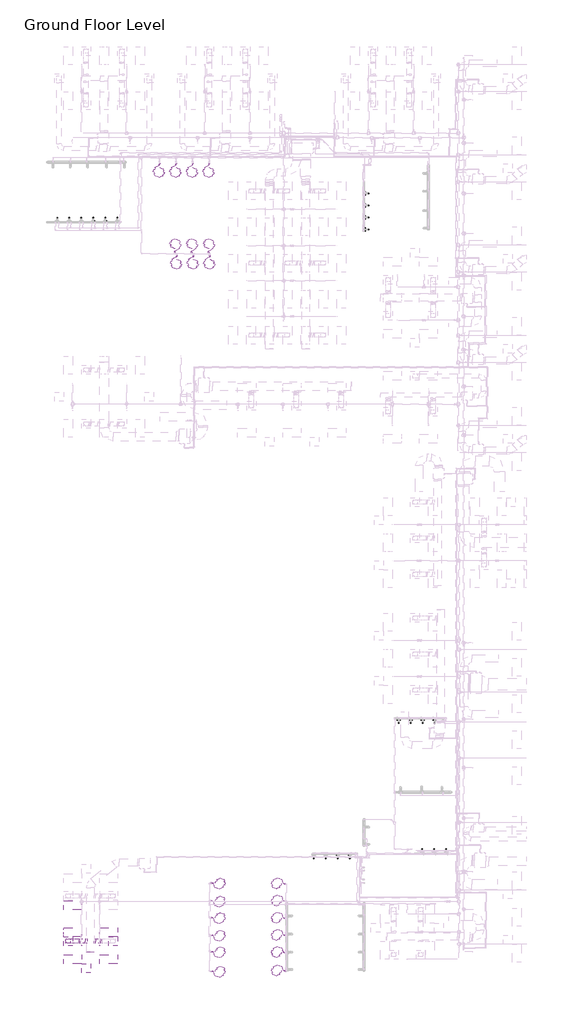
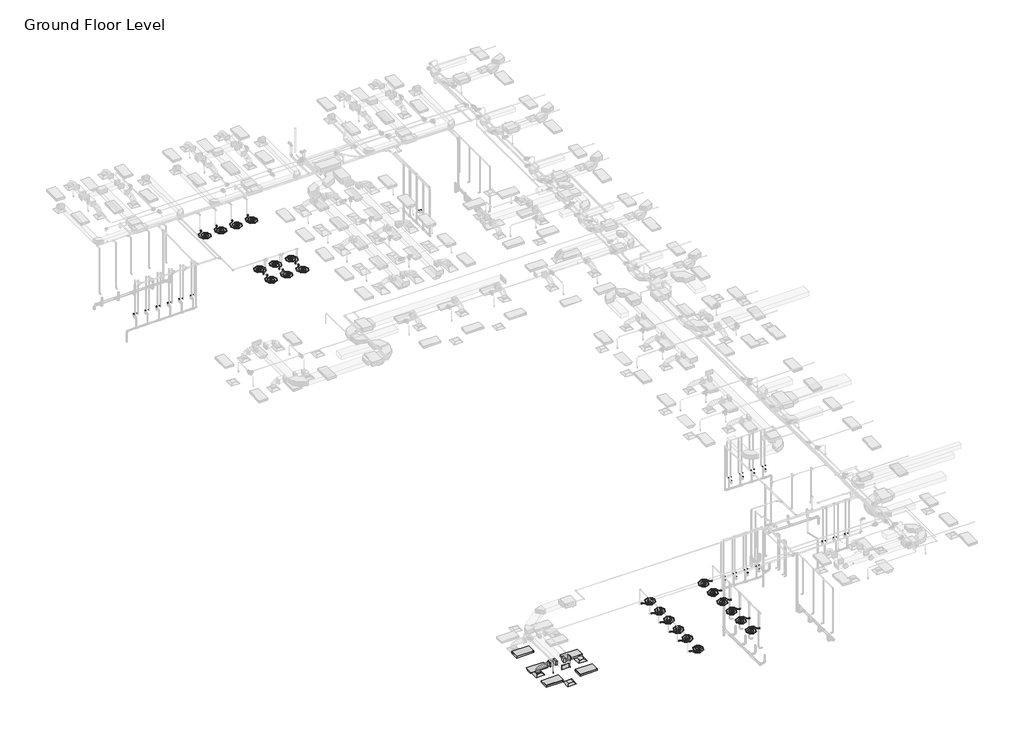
# One storey, part 1 of 75: 43 flow terminals, 6 duct fittings, 5 light fixtures, 3 air terminals, 3 duct segments, 2 fire suppression terminals, 2 pipe segments.
"""IFC4 building model written with IfcOpenShell, lengths in millimetres."""

from ifc_helpers import new_model, si_unit, point, frame, frame_2d, origin, place, context, project, spatial, polyline, circle_curve, ellipse_curve, trimmed, segment, composite_curve, outline, extrude, transform, mapped, element, save
from ifc_brep_helpers import plane_surface, cylinder_surface, advanced_brep
from components import m_return_diffuser_600_x_600_face_300_x_300_connection_ff221211, m_rectangular_endcap_standard_72d4d00d, m_rectangular_takeoff_standard_cb0ccb98, m_rectangular_takeoff_standard_2be5eba1, m_rectangular_to_round_transition_angle_45_degree_641efff0, m_sprinkler_dry_pendent_hosted_15_mm_dry_pendent_9bda8e11, lavatory_unit_m_type_1_c53317d3, shower_m_shower_m_096738a5, m_emergency_recessed_lighting_fixture_600x1200_277_5b10b25d, m_troffer_light_parabolic_rectangular1_0600x1200mm_4_lamp_86473d4a

model = new_model("IFC4")

# Units and contexts
model_context = context("Model", 3, world=origin())
ifc_project = project(units=[si_unit("LENGTHUNIT", "METRE", prefix="MILLI")], contexts=[model_context])

# Site, building, storey
site = spatial("IfcSite", under=ifc_project)
building = spatial("IfcBuilding", under=site)
storey = spatial("IfcBuildingStorey", under=building, Name="Ground Floor Level", Elevation=900.0)

# Air terminals
placement = place(None, origin())
m_return_diffuser_600_x_600_face_300_x_300_connection_shape = m_return_diffuser_600_x_600_face_300_x_300_connection_ff221211(model_context)
element("IfcAirTerminal", 1, ObjectType="M_Return Diffuser : 600 x 600 Face 300 x 300 Connection", at=placement, inside=storey, context=model_context, shape_type="MappedRepresentation", body=[
    mapped(m_return_diffuser_600_x_600_face_300_x_300_connection_shape, transform((-19137.2327605, -40464.7846466, 3650.0), x_axis=(1.0, 0.0, 0.0), y_axis=(0.0, 1.0, 0.0), z_axis=(0.0, 0.0, 1.0))),
])
element("IfcAirTerminal", 2, ObjectType="M_Supply Diffuser : 600 x 600 Face 300 x 300 Connection", at=placement, inside=storey, context=model_context, shape_type="MappedRepresentation", body=[
    mapped(m_return_diffuser_600_x_600_face_300_x_300_connection_shape, transform((-20337.2327605, -38664.7846466, 3650.0), x_axis=(1.0, 0.0, 0.0), y_axis=(0.0, 1.0, 0.0), z_axis=(0.0, 0.0, 1.0))),
])
element("IfcAirTerminal", 3, ObjectType="M_Supply Diffuser : 600 x 600 Face 300 x 300 Connection", at=placement, inside=storey, context=model_context, shape_type="MappedRepresentation", body=[
    mapped(m_return_diffuser_600_x_600_face_300_x_300_connection_shape, transform((-17337.2327605, -38674.7846466, 3650.0), x_axis=(1.0, 0.0, 0.0), y_axis=(0.0, 1.0, 0.0), z_axis=(0.0, 0.0, 1.0))),
])

# Duct fittings
m_rectangular_endcap_standard_shape = m_rectangular_endcap_standard_72d4d00d(model_context)
element("IfcDuctFitting", 4, ObjectType="M_Rectangular Endcap : Standard", at=placement, inside=storey, context=model_context, shape_type="MappedRepresentation", body=[
    mapped(m_rectangular_endcap_standard_shape, transform((-18834.0450532, -39368.1580197, 4100.0), x_axis=(0.0, -1.0, 0.0), y_axis=(1.0, 0.0, 0.0), z_axis=(0.0, 0.0, 1.0))),
])
m_rectangular_takeoff_standard_shape = m_rectangular_takeoff_standard_cb0ccb98(model_context)
element("IfcDuctFitting", 5, ObjectType="M_Rectangular Takeoff : Standard", at=placement, inside=storey, context=model_context, shape_type="MappedRepresentation", body=[
    mapped(m_rectangular_takeoff_standard_shape, transform((-18584.0450532, -38664.7846466, 4100.0), x_axis=(1.0, 0.0, 0.0), y_axis=(0.0, -1.0, 0.0), z_axis=(0.0, 0.0, -1.0))),
])
m_rectangular_takeoff_standard_2_shape = m_rectangular_takeoff_standard_2be5eba1(model_context)
element("IfcDuctFitting", 6, ObjectType="M_Rectangular Takeoff : Standard", at=placement, inside=storey, context=model_context, shape_type="MappedRepresentation", body=[
    mapped(m_rectangular_takeoff_standard_2_shape, transform((-19084.0450532, -38664.7846466, 4100.0), x_axis=(-1.0, 0.0, 0.0), y_axis=(0.0, 1.0, 0.0), z_axis=(0.0, 0.0, -1.0))),
])
m_rectangular_to_round_transition_angle_45_degree_shape = m_rectangular_to_round_transition_angle_45_degree_641efff0(model_context)
element("IfcDuctFitting", 7, ObjectType="M_Rectangular to Round Transition - Angle : 45 Degree", at=placement, inside=storey, context=model_context, shape_type="MappedRepresentation", body=[
    mapped(m_rectangular_to_round_transition_angle_45_degree_shape, transform((-18164.5686918, -38664.7846466, 4100.0), x_axis=(1.0, 0.0, 0.0), y_axis=(0.0, 1.0, 0.0), z_axis=(0.0, 0.0, 1.0))),
])
element("IfcDuctFitting", 8, ObjectType="M_Rectangular to Round Transition - Angle : 45 Degree", at=placement, inside=storey, context=model_context, shape_type="MappedRepresentation", body=[
    mapped(m_rectangular_to_round_transition_angle_45_degree_shape, transform((-20337.2327605, -38664.7846466, 3751.6), x_axis=(0.0, 0.0, 1.0), y_axis=(-1.0, 0.0, 0.0), z_axis=(0.0, -1.0, 0.0))),
])
element("IfcDuctFitting", 9, ObjectType="M_Rectangular to Round Transition - Angle : 45 Degree", at=placement, inside=storey, context=model_context, shape_type="MappedRepresentation", body=[
    mapped(m_rectangular_to_round_transition_angle_45_degree_shape, transform((-19509.8968292, -38664.7846466, 4100.0), x_axis=(-1.0, 0.0, 0.0), y_axis=(0.0, -1.0, 0.0), z_axis=(0.0, 0.0, 1.0))),
])

# Duct segments
element("IfcDuctSegment", 10, ObjectType="Flex - Round", at=placement, inside=storey, context=model_context, shape_type="AdvancedBrep", body=[
    advanced_brep(
    [(-20187.2327605, -38664.7846466, 3826.6), (-20337.2327605, -38814.7846466, 3826.6), (-20487.2327605, -38664.7846466, 3826.6), (-20337.2327605, -38514.7846466, 3826.6), (-20187.2327605, -38664.7846466, 3832.2944892), (-20337.2327605, -38814.7846466, 3857.9377114), (-20487.2327605, -38664.7846466, 3883.5809337), (-20337.2327605, -38514.7846466, 3857.9377114), (-20186.478849, -38664.7846466, 3834.435049), (-20320.216828, -38814.7846466, 3906.2505728), (-20453.9548069, -38664.7846466, 3978.0660967), (-20320.216828, -38514.7846466, 3906.2505728), (-20168.8270484, -38664.7846466, 3857.8020236), (-20273.0329476, -38814.7846466, 3968.7113131), (-20377.2388469, -38664.7846466, 4079.6206026), (-20273.0329476, -38514.7846466, 3968.7113131), (-20132.5429398, -38664.7846466, 3881.8163788), (-20201.4769955, -38814.7846466, 4016.0700639), (-20270.4110511, -38664.7846466, 4150.3237489), (-20201.4769955, -38514.7846466, 4016.0700639), (-20067.7840843, -38664.7846466, 3906.4925606), (-20111.3448475, -38814.7846466, 4050.4146682), (-20154.9056106, -38664.7846466, 4194.3367758), (-20111.3448475, -38514.7846466, 4050.4146682), (-19981.8714556, -38664.7846466, 3926.0424542), (-20008.4323796, -38814.7846466, 4073.8329691), (-20034.9933036, -38664.7846466, 4221.6234841), (-20008.4323796, -38514.7846466, 4073.8329691), (-19883.3845655, -38664.7846466, 3939.1085462), (-19898.5354679, -38814.7846466, 4088.4128097), (-19913.6863702, -38664.7846466, 4237.7170733), (-19898.5354679, -38514.7846466, 4088.4128097), (-19779.9446601, -38664.7846466, 3946.398915), (-19787.4499883, -38814.7846466, 4096.242033), (-19794.9553164, -38664.7846466, 4246.085151), (-19787.4499883, -38514.7846466, 4096.242033), (-19678.2803236, -38664.7846466, 3949.4222102), (-19680.9718167, -38814.7846466, 4099.4084821), (-19683.6633098, -38664.7846466, 4249.394754), (-19680.9718167, -38514.7846466, 4099.4084821), (-19583.9733214, -38664.7846466, 3950.0028429), (-19584.8968292, -38814.7846466, 4100.0), (-19585.8203371, -38664.7846466, 4249.9971571), (-19584.8968292, -38514.7846466, 4100.0)],
    [
        (0, 1, circle_curve(frame((-20337.2327605, -38664.7846466, 3826.6), z_axis=(0.0, 0.0, -1.0), x_axis=(1.0, 0.0, 0.0)), 150.0)),
        (1, 2, circle_curve(frame((-20337.2327605, -38664.7846466, 3826.6), z_axis=(0.0, 0.0, -1.0), x_axis=(1.0, 0.0, 0.0)), 150.0)),
        (2, 3, circle_curve(frame((-20337.2327605, -38664.7846466, 3826.6), z_axis=(0.0, 0.0, -1.0), x_axis=(1.0, 0.0, 0.0)), 150.0)),
        (3, 0, circle_curve(frame((-20337.2327605, -38664.7846466, 3826.6), z_axis=(0.0, 0.0, -1.0), x_axis=(1.0, 0.0, 0.0)), 150.0)),
        (0, 4),
        (4, 5, ellipse_curve(frame((-20337.2327605, -38664.7846466, 3857.9377114), z_axis=(-0.16851014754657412, 0.0, -0.9856999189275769), x_axis=(0.9856999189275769, 0.0, -0.16851014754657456)), 152.176131, 150.0)),
        (5, 1),
        (5, 6, ellipse_curve(frame((-20337.2327605, -38664.7846466, 3857.9377114), z_axis=(-0.16851014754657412, 0.0, -0.9856999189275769), x_axis=(0.9856999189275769, 0.0, -0.16851014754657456)), 152.176131, 150.0)),
        (6, 2),
        (6, 7, ellipse_curve(frame((-20337.2327605, -38664.7846466, 3857.9377114), z_axis=(-0.16851014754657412, 0.0, -0.9856999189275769), x_axis=(0.9856999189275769, 0.0, -0.16851014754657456)), 152.176131, 150.0)),
        (7, 3),
        (7, 4, ellipse_curve(frame((-20337.2327605, -38664.7846466, 3857.9377114), z_axis=(-0.16851014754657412, 0.0, -0.9856999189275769), x_axis=(0.9856999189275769, 0.0, -0.16851014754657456)), 152.176131, 150.0)),
        (4, 8),
        (8, 9, ellipse_curve(frame((-20320.216828, -38664.7846466, 3906.2505728), z_axis=(-0.47309225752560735, 0.0, -0.881012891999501), x_axis=(0.8810128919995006, 0.0, -0.4730922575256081)), 151.8002519, 150.0)),
        (9, 5),
        (9, 10, ellipse_curve(frame((-20320.216828, -38664.7846466, 3906.2505728), z_axis=(-0.47309225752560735, 0.0, -0.881012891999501), x_axis=(0.8810128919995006, 0.0, -0.4730922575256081)), 151.8002519, 150.0)),
        (10, 6),
        (10, 11, ellipse_curve(frame((-20320.216828, -38664.7846466, 3906.2505728), z_axis=(-0.47309225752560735, 0.0, -0.881012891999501), x_axis=(0.8810128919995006, 0.0, -0.4730922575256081)), 151.8002519, 150.0)),
        (11, 7),
        (11, 8, ellipse_curve(frame((-20320.216828, -38664.7846466, 3906.2505728), z_axis=(-0.47309225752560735, 0.0, -0.881012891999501), x_axis=(0.8810128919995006, 0.0, -0.4730922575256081)), 151.8002519, 150.0)),
        (8, 12),
        (12, 13, ellipse_curve(frame((-20273.0329476, -38664.7846466, 3968.7113131), z_axis=(-0.728787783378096, 0.0, -0.6847396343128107), x_axis=(0.6847396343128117, 0.0, -0.7287877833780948)), 152.1832446, 150.0)),
        (13, 9),
        (13, 14, ellipse_curve(frame((-20273.0329476, -38664.7846466, 3968.7113131), z_axis=(-0.728787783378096, 0.0, -0.6847396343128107), x_axis=(0.6847396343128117, 0.0, -0.7287877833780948)), 152.1832446, 150.0)),
        (14, 10),
        (14, 15, ellipse_curve(frame((-20273.0329476, -38664.7846466, 3968.7113131), z_axis=(-0.728787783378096, 0.0, -0.6847396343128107), x_axis=(0.6847396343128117, 0.0, -0.7287877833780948)), 152.1832446, 150.0)),
        (15, 11),
        (15, 12, ellipse_curve(frame((-20273.0329476, -38664.7846466, 3968.7113131), z_axis=(-0.728787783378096, 0.0, -0.6847396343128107), x_axis=(0.6847396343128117, 0.0, -0.7287877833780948)), 152.1832446, 150.0)),
        (12, 16),
        (16, 17, ellipse_curve(frame((-20201.4769955, -38664.7846466, 4016.0700639), z_axis=(-0.8895859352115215, 0.0, -0.4567678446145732), x_axis=(0.45676784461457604, 0.0, -0.88958593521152)), 150.91705, 150.0)),
        (17, 13),
        (17, 18, ellipse_curve(frame((-20201.4769955, -38664.7846466, 4016.0700639), z_axis=(-0.8895859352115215, 0.0, -0.4567678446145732), x_axis=(0.45676784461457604, 0.0, -0.88958593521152)), 150.91705, 150.0)),
        (18, 14),
        (18, 19, ellipse_curve(frame((-20201.4769955, -38664.7846466, 4016.0700639), z_axis=(-0.8895859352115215, 0.0, -0.4567678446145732), x_axis=(0.45676784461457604, 0.0, -0.88958593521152)), 150.91705, 150.0)),
        (19, 15),
        (19, 16, ellipse_curve(frame((-20201.4769955, -38664.7846466, 4016.0700639), z_axis=(-0.8895859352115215, 0.0, -0.4567678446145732), x_axis=(0.45676784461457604, 0.0, -0.88958593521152)), 150.91705, 150.0)),
        (16, 20),
        (20, 21, ellipse_curve(frame((-20111.3448475, -38664.7846466, 4050.4146682), z_axis=(-0.9571203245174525, 0.0, -0.2896906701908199), x_axis=(0.28969067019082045, 0.0, -0.9571203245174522)), 150.369921, 150.0)),
        (21, 17),
        (21, 22, ellipse_curve(frame((-20111.3448475, -38664.7846466, 4050.4146682), z_axis=(-0.9571203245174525, 0.0, -0.2896906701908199), x_axis=(0.28969067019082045, 0.0, -0.9571203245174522)), 150.369921, 150.0)),
        (22, 18),
        (22, 23, ellipse_curve(frame((-20111.3448475, -38664.7846466, 4050.4146682), z_axis=(-0.9571203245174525, 0.0, -0.2896906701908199), x_axis=(0.28969067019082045, 0.0, -0.9571203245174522)), 150.369921, 150.0)),
        (23, 19),
        (23, 20, ellipse_curve(frame((-20111.3448475, -38664.7846466, 4050.4146682), z_axis=(-0.9571203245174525, 0.0, -0.2896906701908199), x_axis=(0.28969067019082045, 0.0, -0.9571203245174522)), 150.369921, 150.0)),
        (20, 24),
        (24, 25, ellipse_curve(frame((-20008.4323796, -38664.7846466, 4073.8329691), z_axis=(-0.9842313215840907, 0.0, -0.17688613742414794), x_axis=(0.17688613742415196, 0.0, -0.9842313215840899)), 150.1583131, 150.0)),
        (25, 21),
        (25, 26, ellipse_curve(frame((-20008.4323796, -38664.7846466, 4073.8329691), z_axis=(-0.9842313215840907, 0.0, -0.17688613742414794), x_axis=(0.17688613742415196, 0.0, -0.9842313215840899)), 150.1583131, 150.0)),
        (26, 22),
        (26, 27, ellipse_curve(frame((-20008.4323796, -38664.7846466, 4073.8329691), z_axis=(-0.9842313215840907, 0.0, -0.17688613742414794), x_axis=(0.17688613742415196, 0.0, -0.9842313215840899)), 150.1583131, 150.0)),
        (27, 23),
        (27, 24, ellipse_curve(frame((-20008.4323796, -38664.7846466, 4073.8329691), z_axis=(-0.9842313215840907, 0.0, -0.17688613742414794), x_axis=(0.17688613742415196, 0.0, -0.9842313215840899)), 150.1583131, 150.0)),
        (24, 28),
        (28, 29, ellipse_curve(frame((-19898.5354679, -38664.7846466, 4088.4128097), z_axis=(-0.9948906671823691, 0.0, -0.1009582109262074), x_axis=(0.10095821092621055, 0.0, -0.9948906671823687)), 150.0710264, 150.0)),
        (29, 25),
        (29, 30, ellipse_curve(frame((-19898.5354679, -38664.7846466, 4088.4128097), z_axis=(-0.9948906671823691, 0.0, -0.1009582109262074), x_axis=(0.10095821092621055, 0.0, -0.9948906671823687)), 150.0710264, 150.0)),
        (30, 26),
        (30, 31, ellipse_curve(frame((-19898.5354679, -38664.7846466, 4088.4128097), z_axis=(-0.9948906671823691, 0.0, -0.1009582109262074), x_axis=(0.10095821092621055, 0.0, -0.9948906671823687)), 150.0710264, 150.0)),
        (31, 27),
        (31, 28, ellipse_curve(frame((-19898.5354679, -38664.7846466, 4088.4128097), z_axis=(-0.9948906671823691, 0.0, -0.1009582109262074), x_axis=(0.10095821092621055, 0.0, -0.9948906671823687)), 150.0710264, 150.0)),
        (28, 32),
        (32, 33, ellipse_curve(frame((-19787.4499883, -38664.7846466, 4096.242033), z_axis=(-0.9987479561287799, 0.0, -0.05002519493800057), x_axis=(0.05002519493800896, 0.0, -0.9987479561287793)), 150.0309634, 150.0)),
        (33, 29),
        (33, 34, ellipse_curve(frame((-19787.4499883, -38664.7846466, 4096.242033), z_axis=(-0.9987479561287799, 0.0, -0.05002519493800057), x_axis=(0.05002519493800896, 0.0, -0.9987479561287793)), 150.0309634, 150.0)),
        (34, 30),
        (34, 35, ellipse_curve(frame((-19787.4499883, -38664.7846466, 4096.242033), z_axis=(-0.9987479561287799, 0.0, -0.05002519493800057), x_axis=(0.05002519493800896, 0.0, -0.9987479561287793)), 150.0309634, 150.0)),
        (35, 31),
        (35, 32, ellipse_curve(frame((-19787.4499883, -38664.7846466, 4096.242033), z_axis=(-0.9987479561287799, 0.0, -0.05002519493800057), x_axis=(0.05002519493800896, 0.0, -0.9987479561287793)), 150.0309634, 150.0)),
        (32, 36),
        (36, 37, ellipse_curve(frame((-19680.9718167, -38664.7846466, 4099.4084821), z_axis=(-0.9998390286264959, 0.0, -0.017942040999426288), x_axis=(0.01794204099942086, 0.0, -0.999839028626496)), 150.0104193, 150.0)),
        (37, 33),
        (37, 38, ellipse_curve(frame((-19680.9718167, -38664.7846466, 4099.4084821), z_axis=(-0.9998390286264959, 0.0, -0.017942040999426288), x_axis=(0.01794204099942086, 0.0, -0.999839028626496)), 150.0104193, 150.0)),
        (38, 34),
        (38, 39, ellipse_curve(frame((-19680.9718167, -38664.7846466, 4099.4084821), z_axis=(-0.9998390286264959, 0.0, -0.017942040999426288), x_axis=(0.01794204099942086, 0.0, -0.999839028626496)), 150.0104193, 150.0)),
        (39, 35),
        (39, 36, ellipse_curve(frame((-19680.9718167, -38664.7846466, 4099.4084821), z_axis=(-0.9998390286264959, 0.0, -0.017942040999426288), x_axis=(0.01794204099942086, 0.0, -0.999839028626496)), 150.0104193, 150.0)),
        (36, 40),
        (40, 41, circle_curve(frame((-19584.8968292, -38664.7846466, 4100.0), z_axis=(-0.9999810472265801, 0.0, -0.006156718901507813), x_axis=(0.006156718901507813, 0.0, -0.9999810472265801)), 150.0)),
        (41, 37),
        (41, 42, circle_curve(frame((-19584.8968292, -38664.7846466, 4100.0), z_axis=(-0.9999810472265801, 0.0, -0.006156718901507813), x_axis=(0.006156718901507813, 0.0, -0.9999810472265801)), 150.0)),
        (42, 38),
        (42, 43, circle_curve(frame((-19584.8968292, -38664.7846466, 4100.0), z_axis=(-0.9999810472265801, 0.0, -0.006156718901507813), x_axis=(0.006156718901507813, 0.0, -0.9999810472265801)), 150.0)),
        (43, 39),
        (43, 40, circle_curve(frame((-19584.8968292, -38664.7846466, 4100.0), z_axis=(-0.9999810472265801, 0.0, -0.006156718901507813), x_axis=(0.006156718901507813, 0.0, -0.9999810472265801)), 150.0)),
    ],
    [
        plane_surface(frame((-20337.2327605, -38814.7846466, 3826.6), z_axis=(0.0, 0.0, -1.0), x_axis=(1.0, 0.0, 0.0))),
        cylinder_surface(frame((-20337.2327605, -38664.7846466, 3826.6), z_axis=(0.0, 0.0, -1.0), x_axis=(1.0, 0.0, 0.0)), 150.0),
        cylinder_surface(frame((-20337.2327605, -38664.7846466, 3857.9377114), z_axis=(-0.3322008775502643, 0.0, -0.9432086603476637), x_axis=(0.9432086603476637, 0.0, -0.3322008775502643)), 150.0),
        cylinder_surface(frame((-20320.216828, -38664.7846466, 3906.2505728), z_axis=(-0.602762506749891, 0.0, -0.7979206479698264), x_axis=(0.7979206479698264, 0.0, -0.602762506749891)), 150.0),
        cylinder_surface(frame((-20273.0329476, -38664.7846466, 3968.7113131), z_axis=(-0.8339024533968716, 0.0, -0.5519118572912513), x_axis=(0.5519118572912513, 0.0, -0.8339024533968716)), 150.0),
        cylinder_surface(frame((-20201.4769955, -38664.7846466, 4016.0700639), z_axis=(-0.9344582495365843, 0.0, -0.35607271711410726), x_axis=(0.35607271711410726, 0.0, -0.9344582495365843)), 150.0),
        cylinder_surface(frame((-20111.3448475, -38664.7846466, 4050.4146682), z_axis=(-0.9750732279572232, 0.0, -0.2218833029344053), x_axis=(0.2218833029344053, 0.0, -0.9750732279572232)), 150.0),
        cylinder_surface(frame((-20008.4323796, -38664.7846466, 4073.8329691), z_axis=(-0.9913140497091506, 0.0, -0.13151598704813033), x_axis=(0.13151598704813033, 0.0, -0.9913140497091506)), 150.0),
        cylinder_surface(frame((-19898.5354679, -38664.7846466, 4088.4128097), z_axis=(-0.9975255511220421, 0.0, -0.07030487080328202), x_axis=(0.07030487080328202, 0.0, -0.9975255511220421)), 150.0),
        cylinder_surface(frame((-19787.4499883, -38664.7846466, 4096.242033), z_axis=(-0.9995581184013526, 0.0, -0.02972487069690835), x_axis=(0.02972487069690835, 0.0, -0.9995581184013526)), 150.0),
        cylinder_surface(frame((-19680.9718167, -38664.7846466, 4099.4084821), z_axis=(-0.9999810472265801, 0.0, -0.006156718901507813), x_axis=(0.006156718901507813, 0.0, -0.9999810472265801)), 150.0),
        plane_surface(frame((-19584.8968292, -38814.7846466, 4100.0), z_axis=(0.9999810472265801, 0.0, 0.00615671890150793), x_axis=(0.00615671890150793, 0.0, -0.9999810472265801))),
    ],
    [
        (0, [[1, 2, 3, 4]]),
        (1, [[-1, 5, 6, 7]]),
        (1, [[-2, -7, 8, 9]]),
        (1, [[-3, -9, 10, 11]]),
        (1, [[-4, -11, 12, -5]]),
        (2, [[-6, 13, 14, 15]]),
        (2, [[-8, -15, 16, 17]]),
        (2, [[-10, -17, 18, 19]]),
        (2, [[-12, -19, 20, -13]]),
        (3, [[-14, 21, 22, 23]]),
        (3, [[-16, -23, 24, 25]]),
        (3, [[-18, -25, 26, 27]]),
        (3, [[-20, -27, 28, -21]]),
        (4, [[-22, 29, 30, 31]]),
        (4, [[-24, -31, 32, 33]]),
        (4, [[-26, -33, 34, 35]]),
        (4, [[-28, -35, 36, -29]]),
        (5, [[-30, 37, 38, 39]]),
        (5, [[-32, -39, 40, 41]]),
        (5, [[-34, -41, 42, 43]]),
        (5, [[-36, -43, 44, -37]]),
        (6, [[-38, 45, 46, 47]]),
        (6, [[-40, -47, 48, 49]]),
        (6, [[-42, -49, 50, 51]]),
        (6, [[-44, -51, 52, -45]]),
        (7, [[-46, 53, 54, 55]]),
        (7, [[-48, -55, 56, 57]]),
        (7, [[-50, -57, 58, 59]]),
        (7, [[-52, -59, 60, -53]]),
        (8, [[-54, 61, 62, 63]]),
        (8, [[-56, -63, 64, 65]]),
        (8, [[-58, -65, 66, 67]]),
        (8, [[-60, -67, 68, -61]]),
        (9, [[-62, 69, 70, 71]]),
        (9, [[-64, -71, 72, 73]]),
        (9, [[-66, -73, 74, 75]]),
        (9, [[-68, -75, 76, -69]]),
        (10, [[-70, 77, 78, 79]]),
        (10, [[-72, -79, 80, 81]]),
        (10, [[-74, -81, 82, 83]]),
        (10, [[-76, -83, 84, -77]]),
        (11, [[-84, -82, -80, -78]]),
    ],
),
])
element("IfcDuctSegment", 11, ObjectType="Radius Elbows / Taps", at=placement, inside=storey, context=model_context, shape_type="SweptSolid", body=[
    extrude(outline(polyline([(-19185.6450532, -38514.7846466), (-19185.6450532, -38814.7846466), (-19509.8968292, -38814.7846466), (-19509.8968292, -38514.7846466), (-19185.6450532, -38514.7846466)])), frame((0.0, 0.0, 3950.0), z_axis=(0.0, 0.0, 1.0), x_axis=(1.0, 0.0, 0.0)), (0.0, 0.0, 1.0), 300.0),
])
element("IfcDuctSegment", 12, ObjectType="Radius Elbows / Taps", at=placement, inside=storey, context=model_context, shape_type="SweptSolid", body=[
    extrude(outline(polyline([(-18482.4450532, -38814.7846466), (-18482.4450532, -38514.7846466), (-18164.5686918, -38514.7846466), (-18164.5686918, -38814.7846466), (-18482.4450532, -38814.7846466)])), frame((0.0, 0.0, 3950.0), z_axis=(0.0, 0.0, 1.0), x_axis=(1.0, 0.0, 0.0)), (0.0, 0.0, 1.0), 300.0),
])

# Fire suppression terminals
m_sprinkler_dry_pendent_hosted_15_mm_dry_pendent_shape = m_sprinkler_dry_pendent_hosted_15_mm_dry_pendent_9bda8e11(model_context)
element("IfcFireSuppressionTerminal", 13, ObjectType="M_Sprinkler - Dry - Pendent - Hosted : 15 mm Dry Pendent", at=placement, inside=storey, context=model_context, shape_type="MappedRepresentation", body=[
    mapped(m_sprinkler_dry_pendent_hosted_15_mm_dry_pendent_shape, transform((-18237.2327605, -38964.7846466, 3650.0), x_axis=(1.0, 0.0, 0.0), y_axis=(0.0, -1.0, 0.0), z_axis=(0.0, 0.0, -1.0))),
])
element("IfcFireSuppressionTerminal", 14, ObjectType="M_Sprinkler - Dry - Pendent - Hosted : 15 mm Dry Pendent", at=placement, inside=storey, context=model_context, shape_type="MappedRepresentation", body=[
    mapped(m_sprinkler_dry_pendent_hosted_15_mm_dry_pendent_shape, transform((-19437.2327605, -38964.7846466, 3650.0), x_axis=(1.0, 0.0, 0.0), y_axis=(0.0, -1.0, 0.0), z_axis=(0.0, 0.0, -1.0))),
])

# Flow terminals
lavatory_unit_m_type_1_shape = lavatory_unit_m_type_1_c53317d3(model_context)
element("IfcFlowTerminal", 15, ObjectType="Lavatory Unit-M : Type 1", at=placement, inside=storey, context=model_context, shape_type="MappedRepresentation", body=[
    mapped(lavatory_unit_m_type_1_shape, transform((-21186.2502, 9255.2153534, 920.0), x_axis=(1.0, 0.0, 0.0), y_axis=(0.0, 1.0, 0.0), z_axis=(0.0, 0.0, 1.0))),
])
element("IfcFlowTerminal", 16, ObjectType="Lavatory Unit-M : Type 1", at=placement, inside=storey, context=model_context, shape_type="MappedRepresentation", body=[
    mapped(lavatory_unit_m_type_1_shape, transform((-20386.2502, 9255.2153534, 920.0), x_axis=(1.0, 0.0, 0.0), y_axis=(0.0, 1.0, 0.0), z_axis=(0.0, 0.0, 1.0))),
])
element("IfcFlowTerminal", 17, ObjectType="Lavatory Unit-M : Type 1", at=placement, inside=storey, context=model_context, shape_type="MappedRepresentation", body=[
    mapped(lavatory_unit_m_type_1_shape, transform((-537.2327605, 8796.1979139, 920.0), x_axis=(0.0, -1.0, 0.0), y_axis=(1.0, 0.0, 0.0), z_axis=(0.0, 0.0, 1.0))),
])
element("IfcFlowTerminal", 18, ObjectType="Lavatory Unit-M : Type 1", at=placement, inside=storey, context=model_context, shape_type="MappedRepresentation", body=[
    mapped(lavatory_unit_m_type_1_shape, transform((-19586.2502, 9255.2153534, 920.0), x_axis=(1.0, 0.0, 0.0), y_axis=(0.0, 1.0, 0.0), z_axis=(0.0, 0.0, 1.0))),
])
element("IfcFlowTerminal", 19, ObjectType="Lavatory Unit-M : Type 1", at=placement, inside=storey, context=model_context, shape_type="MappedRepresentation", body=[
    mapped(lavatory_unit_m_type_1_shape, transform((-18786.2502, 9255.2153534, 920.0), x_axis=(1.0, 0.0, 0.0), y_axis=(0.0, 1.0, 0.0), z_axis=(0.0, 0.0, 1.0))),
])
element("IfcFlowTerminal", 20, ObjectType="Lavatory Unit-M : Type 1", at=placement, inside=storey, context=model_context, shape_type="MappedRepresentation", body=[
    mapped(lavatory_unit_m_type_1_shape, transform((-17986.2502, 9255.2153534, 920.0), x_axis=(1.0, 0.0, 0.0), y_axis=(0.0, 1.0, 0.0), z_axis=(0.0, 0.0, 1.0))),
])
element("IfcFlowTerminal", 21, ObjectType="Lavatory Unit-M : Type 1", at=placement, inside=storey, context=model_context, shape_type="MappedRepresentation", body=[
    mapped(lavatory_unit_m_type_1_shape, transform((-17186.2502, 9255.2153534, 920.0), x_axis=(1.0, 0.0, 0.0), y_axis=(0.0, 1.0, 0.0), z_axis=(0.0, 0.0, 1.0))),
])
element("IfcFlowTerminal", 22, ObjectType="Lavatory Unit-M : Type 1", at=placement, inside=storey, context=model_context, shape_type="MappedRepresentation", body=[
    mapped(lavatory_unit_m_type_1_shape, transform((-537.2327605, 9596.1979139, 920.0), x_axis=(0.0, -1.0, 0.0), y_axis=(1.0, 0.0, 0.0), z_axis=(0.0, 0.0, 1.0))),
])
element("IfcFlowTerminal", 23, ObjectType="Lavatory Unit-M : Type 1", at=placement, inside=storey, context=model_context, shape_type="MappedRepresentation", body=[
    mapped(lavatory_unit_m_type_1_shape, transform((-537.2327605, 10396.1979139, 920.0), x_axis=(0.0, -1.0, 0.0), y_axis=(1.0, 0.0, 0.0), z_axis=(0.0, 0.0, 1.0))),
])
element("IfcFlowTerminal", 24, ObjectType="Lavatory Unit-M : Type 1", at=placement, inside=storey, context=model_context, shape_type="MappedRepresentation", body=[
    mapped(lavatory_unit_m_type_1_shape, transform((-537.2327605, 11196.1979139, 920.0), x_axis=(0.0, -1.0, 0.0), y_axis=(1.0, 0.0, 0.0), z_axis=(0.0, 0.0, 1.0))),
])
element("IfcFlowTerminal", 25, ObjectType="Lavatory Unit-M : Type 1", at=placement, inside=storey, context=model_context, shape_type="MappedRepresentation", body=[
    mapped(lavatory_unit_m_type_1_shape, transform((1803.7498, -23964.7846466, 920.0), x_axis=(-1.0, 0.0, 0.0), y_axis=(0.0, -1.0, 0.0), z_axis=(0.0, 0.0, 1.0))),
])
element("IfcFlowTerminal", 26, ObjectType="Lavatory Unit-M : Type 1", at=placement, inside=storey, context=model_context, shape_type="MappedRepresentation", body=[
    mapped(lavatory_unit_m_type_1_shape, transform((2603.7498, -23964.7846466, 920.0), x_axis=(-1.0, 0.0, 0.0), y_axis=(0.0, -1.0, 0.0), z_axis=(0.0, 0.0, 1.0))),
])
element("IfcFlowTerminal", 27, ObjectType="Lavatory Unit-M : Type 1", at=placement, inside=storey, context=model_context, shape_type="MappedRepresentation", body=[
    mapped(lavatory_unit_m_type_1_shape, transform((3403.7498, -23964.7846466, 920.0), x_axis=(-1.0, 0.0, 0.0), y_axis=(0.0, -1.0, 0.0), z_axis=(0.0, 0.0, 1.0))),
])
element("IfcFlowTerminal", 28, ObjectType="Lavatory Unit-M : Type 1", at=placement, inside=storey, context=model_context, shape_type="MappedRepresentation", body=[
    mapped(lavatory_unit_m_type_1_shape, transform((4203.7498, -23964.7846466, 920.0), x_axis=(-1.0, 0.0, 0.0), y_axis=(0.0, -1.0, 0.0), z_axis=(0.0, 0.0, 1.0))),
])
element("IfcFlowTerminal", 29, ObjectType="Lavatory Unit-M : Type 1", at=placement, inside=storey, context=model_context, shape_type="MappedRepresentation", body=[
    mapped(lavatory_unit_m_type_1_shape, transform((4701.7846789, -32744.7846466, 920.0), x_axis=(1.0, 0.0, 0.0), y_axis=(0.0, 1.0, 0.0), z_axis=(0.0, 0.0, 1.0))),
])
element("IfcFlowTerminal", 30, ObjectType="Lavatory Unit-M : Type 1", at=placement, inside=storey, context=model_context, shape_type="MappedRepresentation", body=[
    mapped(lavatory_unit_m_type_1_shape, transform((3901.7846789, -32744.7846466, 920.0), x_axis=(1.0, 0.0, 0.0), y_axis=(0.0, 1.0, 0.0), z_axis=(0.0, 0.0, 1.0))),
])
element("IfcFlowTerminal", 31, ObjectType="Lavatory Unit-M : Type 1", at=placement, inside=storey, context=model_context, shape_type="MappedRepresentation", body=[
    mapped(lavatory_unit_m_type_1_shape, transform((3101.7846789, -32744.7846466, 920.0), x_axis=(1.0, 0.0, 0.0), y_axis=(0.0, 1.0, 0.0), z_axis=(0.0, 0.0, 1.0))),
])
element("IfcFlowTerminal", 32, ObjectType="Lavatory Unit-M : Type 1", at=placement, inside=storey, context=model_context, shape_type="MappedRepresentation", body=[
    mapped(lavatory_unit_m_type_1_shape, transform((-1448.215321, -32964.7846466, 920.0), x_axis=(-1.0, 0.0, 0.0), y_axis=(0.0, -1.0, 0.0), z_axis=(0.0, 0.0, 1.0))),
])
element("IfcFlowTerminal", 33, ObjectType="Lavatory Unit-M : Type 1", at=placement, inside=storey, context=model_context, shape_type="MappedRepresentation", body=[
    mapped(lavatory_unit_m_type_1_shape, transform((-2248.215321, -32964.7846466, 920.0), x_axis=(-1.0, 0.0, 0.0), y_axis=(0.0, -1.0, 0.0), z_axis=(0.0, 0.0, 1.0))),
])
element("IfcFlowTerminal", 34, ObjectType="Lavatory Unit-M : Type 1", at=placement, inside=storey, context=model_context, shape_type="MappedRepresentation", body=[
    mapped(lavatory_unit_m_type_1_shape, transform((-3048.215321, -32964.7846466, 920.0), x_axis=(-1.0, 0.0, 0.0), y_axis=(0.0, -1.0, 0.0), z_axis=(0.0, 0.0, 1.0))),
])
element("IfcFlowTerminal", 35, ObjectType="Lavatory Unit-M : Type 1", at=placement, inside=storey, context=model_context, shape_type="MappedRepresentation", body=[
    mapped(lavatory_unit_m_type_1_shape, transform((-3848.215321, -32964.7846466, 920.0), x_axis=(-1.0, 0.0, 0.0), y_axis=(0.0, -1.0, 0.0), z_axis=(0.0, 0.0, 1.0))),
])
shower_m_shower_m_shape = shower_m_shower_m_096738a5(model_context)
element("IfcFlowTerminal", 36, ObjectType="Shower-M : Shower-M", at=placement, inside=storey, context=model_context, shape_type="MappedRepresentation", body=[
    mapped(shower_m_shower_m_shape, transform((-10283.9007605, -34799.6019973, 3200.0), x_axis=(-1.0, 0.0, 0.0), y_axis=(0.0, -1.0, 0.0), z_axis=(0.0, 0.0, 1.0))),
])
element("IfcFlowTerminal", 37, ObjectType="Shower-M : Shower-M", at=placement, inside=storey, context=model_context, shape_type="MappedRepresentation", body=[
    mapped(shower_m_shower_m_shape, transform((-10283.9007605, -35999.6019973, 3200.0), x_axis=(-1.0, 0.0, 0.0), y_axis=(0.0, -1.0, 0.0), z_axis=(0.0, 0.0, 1.0))),
])
element("IfcFlowTerminal", 38, ObjectType="Shower-M : Shower-M", at=placement, inside=storey, context=model_context, shape_type="MappedRepresentation", body=[
    mapped(shower_m_shower_m_shape, transform((-10283.9007605, -37099.6019973, 3200.0), x_axis=(-1.0, 0.0, 0.0), y_axis=(0.0, -1.0, 0.0), z_axis=(0.0, 0.0, 1.0))),
])
element("IfcFlowTerminal", 39, ObjectType="Shower-M : Shower-M", at=placement, inside=storey, context=model_context, shape_type="MappedRepresentation", body=[
    mapped(shower_m_shower_m_shape, transform((-10283.9007605, -38269.7846466, 3200.0), x_axis=(-1.0, 0.0, 0.0), y_axis=(0.0, -1.0, 0.0), z_axis=(0.0, 0.0, 1.0))),
])
element("IfcFlowTerminal", 40, ObjectType="Shower-M : Shower-M", at=placement, inside=storey, context=model_context, shape_type="MappedRepresentation", body=[
    mapped(shower_m_shower_m_shape, transform((-10283.9007605, -39369.7846466, 3200.0), x_axis=(-1.0, 0.0, 0.0), y_axis=(0.0, -1.0, 0.0), z_axis=(0.0, 0.0, 1.0))),
])
element("IfcFlowTerminal", 41, ObjectType="Shower-M : Shower-M", at=placement, inside=storey, context=model_context, shape_type="MappedRepresentation", body=[
    mapped(shower_m_shower_m_shape, transform((-10283.9007605, -40669.7846466, 3200.0), x_axis=(-1.0, 0.0, 0.0), y_axis=(0.0, -1.0, 0.0), z_axis=(0.0, 0.0, 1.0))),
])
element("IfcFlowTerminal", 42, ObjectType="Shower-M : Shower-M", at=placement, inside=storey, context=model_context, shape_type="MappedRepresentation", body=[
    mapped(shower_m_shower_m_shape, transform((-6390.5687605, -34864.6926466, 3200.0), x_axis=(1.0, 0.0, 0.0), y_axis=(0.0, 1.0, 0.0), z_axis=(0.0, 0.0, 1.0))),
])
element("IfcFlowTerminal", 43, ObjectType="Shower-M : Shower-M", at=placement, inside=storey, context=model_context, shape_type="MappedRepresentation", body=[
    mapped(shower_m_shower_m_shape, transform((-6390.5687605, -36012.7835466, 3200.0), x_axis=(1.0, 0.0, 0.0), y_axis=(0.0, 1.0, 0.0), z_axis=(0.0, 0.0, 1.0))),
])
element("IfcFlowTerminal", 44, ObjectType="Shower-M : Shower-M", at=placement, inside=storey, context=model_context, shape_type="MappedRepresentation", body=[
    mapped(shower_m_shower_m_shape, transform((-6390.5687605, -37152.7833366, 3200.0), x_axis=(1.0, 0.0, 0.0), y_axis=(0.0, 1.0, 0.0), z_axis=(0.0, 0.0, 1.0))),
])
element("IfcFlowTerminal", 45, ObjectType="Shower-M : Shower-M", at=placement, inside=storey, context=model_context, shape_type="MappedRepresentation", body=[
    mapped(shower_m_shower_m_shape, transform((-6390.5687605, -38292.7833266, 3200.0), x_axis=(1.0, 0.0, 0.0), y_axis=(0.0, 1.0, 0.0), z_axis=(0.0, 0.0, 1.0))),
])
element("IfcFlowTerminal", 46, ObjectType="Shower-M : Shower-M", at=placement, inside=storey, context=model_context, shape_type="MappedRepresentation", body=[
    mapped(shower_m_shower_m_shape, transform((-6390.5687605, -39432.7929166, 3200.0), x_axis=(1.0, 0.0, 0.0), y_axis=(0.0, 1.0, 0.0), z_axis=(0.0, 0.0, 1.0))),
])
element("IfcFlowTerminal", 47, ObjectType="Shower-M : Shower-M", at=placement, inside=storey, context=model_context, shape_type="MappedRepresentation", body=[
    mapped(shower_m_shower_m_shape, transform((-6390.5687605, -40654.7846466, 3200.0), x_axis=(1.0, 0.0, 0.0), y_axis=(0.0, 1.0, 0.0), z_axis=(0.0, 0.0, 1.0))),
])
element("IfcFlowTerminal", 48, ObjectType="Shower-M : Shower-M", at=placement, inside=storey, context=model_context, shape_type="MappedRepresentation", body=[
    mapped(shower_m_shower_m_shape, transform((-14247.2327605, 12535.2153534, 3200.0), x_axis=(0.0, 1.0, 0.0), y_axis=(-1.0, 0.0, 0.0), z_axis=(0.0, 0.0, 1.0))),
])
element("IfcFlowTerminal", 49, ObjectType="Shower-M : Shower-M", at=placement, inside=storey, context=model_context, shape_type="MappedRepresentation", body=[
    mapped(shower_m_shower_m_shape, transform((-13147.2327605, 12535.2153534, 3200.0), x_axis=(0.0, 1.0, 0.0), y_axis=(-1.0, 0.0, 0.0), z_axis=(0.0, 0.0, 1.0))),
])
element("IfcFlowTerminal", 50, ObjectType="Shower-M : Shower-M", at=placement, inside=storey, context=model_context, shape_type="MappedRepresentation", body=[
    mapped(shower_m_shower_m_shape, transform((-12047.2327605, 12535.2153534, 3200.0), x_axis=(0.0, 1.0, 0.0), y_axis=(-1.0, 0.0, 0.0), z_axis=(0.0, 0.0, 1.0))),
])
element("IfcFlowTerminal", 51, ObjectType="Shower-M : Shower-M", at=placement, inside=storey, context=model_context, shape_type="MappedRepresentation", body=[
    mapped(shower_m_shower_m_shape, transform((-10947.2327605, 12535.2153534, 3200.0), x_axis=(0.0, 1.0, 0.0), y_axis=(-1.0, 0.0, 0.0), z_axis=(0.0, 0.0, 1.0))),
])
element("IfcFlowTerminal", 52, ObjectType="Shower-M : Shower-M", at=placement, inside=storey, context=model_context, shape_type="MappedRepresentation", body=[
    mapped(shower_m_shower_m_shape, transform((-13232.2327605, 7645.2153534, 3200.0), x_axis=(0.0, -1.0, 0.0), y_axis=(1.0, 0.0, 0.0), z_axis=(0.0, 0.0, 1.0))),
])
element("IfcFlowTerminal", 53, ObjectType="Shower-M : Shower-M", at=placement, inside=storey, context=model_context, shape_type="MappedRepresentation", body=[
    mapped(shower_m_shower_m_shape, transform((-12122.2327605, 7645.2153534, 3200.0), x_axis=(0.0, -1.0, 0.0), y_axis=(1.0, 0.0, 0.0), z_axis=(0.0, 0.0, 1.0))),
])
element("IfcFlowTerminal", 54, ObjectType="Shower-M : Shower-M", at=placement, inside=storey, context=model_context, shape_type="MappedRepresentation", body=[
    mapped(shower_m_shower_m_shape, transform((-10987.2327605, 7645.2153534, 3200.0), x_axis=(0.0, -1.0, 0.0), y_axis=(1.0, 0.0, 0.0), z_axis=(0.0, 0.0, 1.0))),
])
element("IfcFlowTerminal", 55, ObjectType="Shower-M : Shower-M", at=placement, inside=storey, context=model_context, shape_type="MappedRepresentation", body=[
    mapped(shower_m_shower_m_shape, transform((-10897.2327605, 6425.2153534, 3200.0), x_axis=(0.0, 1.0, 0.0), y_axis=(-1.0, 0.0, 0.0), z_axis=(0.0, 0.0, 1.0))),
])
element("IfcFlowTerminal", 56, ObjectType="Shower-M : Shower-M", at=placement, inside=storey, context=model_context, shape_type="MappedRepresentation", body=[
    mapped(shower_m_shower_m_shape, transform((-11997.2327605, 6435.2153534, 3200.0), x_axis=(0.0, 1.0, 0.0), y_axis=(-1.0, 0.0, 0.0), z_axis=(0.0, 0.0, 1.0))),
])
element("IfcFlowTerminal", 57, ObjectType="Shower-M : Shower-M", at=placement, inside=storey, context=model_context, shape_type="MappedRepresentation", body=[
    mapped(shower_m_shower_m_shape, transform((-13107.2327605, 6435.2153534, 3200.0), x_axis=(0.0, 1.0, 0.0), y_axis=(-1.0, 0.0, 0.0), z_axis=(0.0, 0.0, 1.0))),
])

# Light fixtures
m_emergency_recessed_lighting_fixture_600x1200_277_shape = m_emergency_recessed_lighting_fixture_600x1200_277_5b10b25d(model_context)
element("IfcLightFixture", 58, ObjectType="M_Emergency Recessed Lighting Fixture : 600x1200 - 277", at=placement, inside=storey, context=model_context, shape_type="MappedRepresentation", body=[
    mapped(m_emergency_recessed_lighting_fixture_600x1200_277_shape, transform((-20637.2327605, -37764.7846466, 3650.0), x_axis=(1.0, 0.0, 0.0), y_axis=(0.0, 1.0, 0.0), z_axis=(0.0, 0.0, 1.0))),
])
m_troffer_light_parabolic_rectangular1_0600x1200mm_4_lamp_shape = m_troffer_light_parabolic_rectangular1_0600x1200mm_4_lamp_86473d4a(model_context)
element("IfcLightFixture", 59, ObjectType="M_Troffer Light - Parabolic Rectangular1 : 0600x1200mm(4 Lamp) - 277V 2", at=placement, inside=storey, context=model_context, shape_type="MappedRepresentation", body=[
    mapped(m_troffer_light_parabolic_rectangular1_0600x1200mm_4_lamp_shape, transform((-20018.5292589, -39811.6319125, 3650.0), x_axis=(1.0, 0.0, 0.0), y_axis=(0.0, 1.0, 0.0), z_axis=(0.0, 0.0, 1.0))),
])
element("IfcLightFixture", 60, ObjectType="M_Troffer Light - Parabolic Rectangular1 : 0600x1200mm(4 Lamp) - 277V 2", at=placement, inside=storey, context=model_context, shape_type="MappedRepresentation", body=[
    mapped(m_troffer_light_parabolic_rectangular1_0600x1200mm_4_lamp_shape, transform((-17618.5292589, -39811.6319125, 3650.0), x_axis=(1.0, 0.0, 0.0), y_axis=(0.0, 1.0, 0.0), z_axis=(0.0, 0.0, 1.0))),
])
element("IfcLightFixture", 61, ObjectType="M_Troffer Light - Parabolic Rectangular1 : 0600x1200mm(4 Lamp) - 277V 2", at=placement, inside=storey, context=model_context, shape_type="MappedRepresentation", body=[
    mapped(m_troffer_light_parabolic_rectangular1_0600x1200mm_4_lamp_shape, transform((-17618.5292589, -38011.6319125, 3650.0), x_axis=(1.0, 0.0, 0.0), y_axis=(0.0, 1.0, 0.0), z_axis=(0.0, 0.0, 1.0))),
])
element("IfcLightFixture", 62, ObjectType="M_Troffer Light - Parabolic Rectangular1 : 0600x1200mm(4 Lamp) - 277V 2", at=placement, inside=storey, context=model_context, shape_type="MappedRepresentation", body=[
    mapped(m_troffer_light_parabolic_rectangular1_0600x1200mm_4_lamp_shape, transform((-20018.5292589, -36211.6319125, 3650.0), x_axis=(1.0, 0.0, 0.0), y_axis=(0.0, 1.0, 0.0), z_axis=(0.0, 0.0, 1.0))),
])

# Pipe segments
element("IfcPipeSegment", 63, ObjectType="Steel flanged", at=placement, inside=storey, context=model_context, shape_type="SweptSolid", body=[
    extrude(outline(composite_curve([segment(trimmed(circle_curve(frame_2d((-19437.2327605, -38964.7846466)), 10.668), [point((-19447.9007605, -38964.7846466))], [point((-19437.2327605, -38954.1166466))], False, "CARTESIAN"), True, "CONTINUOUS"), segment(trimmed(circle_curve(frame_2d((-19437.2327605, -38964.7846466)), 10.668), [point((-19437.2327605, -38954.1166466))], [point((-19426.5647605, -38964.7846466))], False, "CARTESIAN"), True, "CONTINUOUS"), segment(trimmed(circle_curve(frame_2d((-19437.2327605, -38964.7846466)), 10.668), [point((-19426.5647605, -38964.7846466))], [point((-19437.2327605, -38975.4526466))], False, "CARTESIAN"), True, "CONTINUOUS"), segment(trimmed(circle_curve(frame_2d((-19437.2327605, -38964.7846466)), 10.668), [point((-19437.2327605, -38975.4526466))], [point((-19447.9007605, -38964.7846466))], False, "CARTESIAN"), True, "CONTINUOUS")], self_intersect=False)), frame((0.0, 0.0, 3650.0), z_axis=(0.0, 0.0, 1.0), x_axis=(1.0, 0.0, 0.0)), (0.0, 0.0, 1.0), 604.4914063),
])
element("IfcPipeSegment", 64, ObjectType="Steel flanged", at=placement, inside=storey, context=model_context, shape_type="SweptSolid", body=[
    extrude(outline(composite_curve([segment(trimmed(circle_curve(frame_2d((-18237.2327605, -38964.7846466)), 10.668), [point((-18247.9007605, -38964.7846466))], [point((-18237.2327605, -38954.1166466))], False, "CARTESIAN"), True, "CONTINUOUS"), segment(trimmed(circle_curve(frame_2d((-18237.2327605, -38964.7846466)), 10.668), [point((-18237.2327605, -38954.1166466))], [point((-18226.5647605, -38964.7846466))], False, "CARTESIAN"), True, "CONTINUOUS"), segment(trimmed(circle_curve(frame_2d((-18237.2327605, -38964.7846466)), 10.668), [point((-18226.5647605, -38964.7846466))], [point((-18237.2327605, -38975.4526466))], False, "CARTESIAN"), True, "CONTINUOUS"), segment(trimmed(circle_curve(frame_2d((-18237.2327605, -38964.7846466)), 10.668), [point((-18237.2327605, -38975.4526466))], [point((-18247.9007605, -38964.7846466))], False, "CARTESIAN"), True, "CONTINUOUS")], self_intersect=False)), frame((0.0, 0.0, 3650.0), z_axis=(0.0, 0.0, 1.0), x_axis=(1.0, 0.0, 0.0)), (0.0, 0.0, 1.0), 604.4914063),
])

save(model, "model.ifc")
